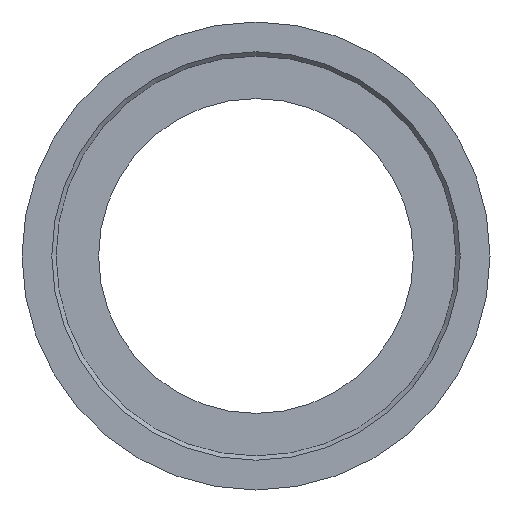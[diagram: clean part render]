
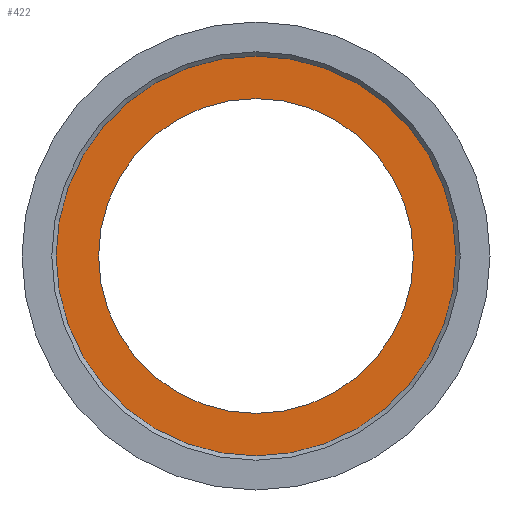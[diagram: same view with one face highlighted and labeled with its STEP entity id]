
A CAD part, left-side view. The second image highlights one B-rep face of the part: STEP entity #422.
In plain terms, the highlighted planar face has unit normal (-1, 0, 0).
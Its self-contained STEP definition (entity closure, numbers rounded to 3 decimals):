
#422=ADVANCED_FACE('',(#537,#478),#447,.T.);
#447=PLANE('',#929);
#478=FACE_BOUND('',#590,.T.);
#537=FACE_OUTER_BOUND('',#589,.T.);
#589=EDGE_LOOP('',(#681));
#590=EDGE_LOOP('',(#682));
#681=ORIENTED_EDGE('',*,*,#811,.T.);
#682=ORIENTED_EDGE('',*,*,#810,.F.);
#764=VERTEX_POINT('',#1245);
#765=VERTEX_POINT('',#1248);
#810=EDGE_CURVE('',#764,#764,#856,.T.);
#811=EDGE_CURVE('',#765,#765,#857,.T.);
#856=CIRCLE('',#926,18.5);
#857=CIRCLE('',#928,23.5);
#926=AXIS2_PLACEMENT_3D('',#1244,#1082,#1083);
#928=AXIS2_PLACEMENT_3D('',#1247,#1086,#1087);
#929=AXIS2_PLACEMENT_3D('',#1249,#1088,#1089);
#1082=DIRECTION('',(-1.,0.,0.));
#1083=DIRECTION('',(0.,0.,1.));
#1086=DIRECTION('',(-1.,0.,0.));
#1087=DIRECTION('',(0.,0.,1.));
#1088=DIRECTION('',(-1.,0.,0.));
#1089=DIRECTION('',(0.,0.,1.));
#1244=CARTESIAN_POINT('',(6.,0.,0.));
#1245=CARTESIAN_POINT('',(6.,0.,18.5));
#1247=CARTESIAN_POINT('',(6.,0.,0.));
#1248=CARTESIAN_POINT('',(6.,0.,23.5));
#1249=CARTESIAN_POINT('',(6.,18.5,0.));
